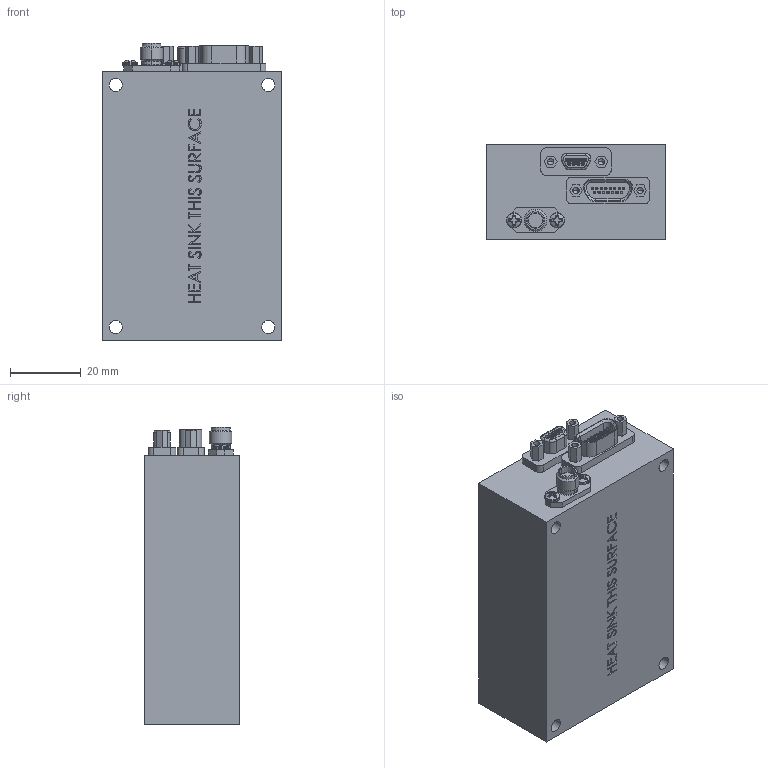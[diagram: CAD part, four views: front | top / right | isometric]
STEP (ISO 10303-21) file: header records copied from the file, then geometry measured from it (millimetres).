
FILE_DESCRIPTION (( 'STEP AP203' ), '1' );
FILE_NAME ('06BE.STEP', '2025-11-11T21:16:56', ( '' ), ( '' ), 'SwSTEP 2.0', 'SolidWorks 2023', '' );
FILE_SCHEMA (( 'CONFIG_CONTROL_DESIGN' ));
Length unit declared in the file: inch
Products named in the file (1): 06BE
Bounding box: 50.8 x 26.97 x 84.14 mm (x, y, z)
Volume: 105388.1 mm3; surface area: 20078.1 mm2
Topology: 10 solids, 10 shells, 898 faces, 2168 edges, 1406 vertices
Faces by surface type: plane 420, cylinder 287, bspline 101, cone 53, torus 33, sphere 4
Entity records: 31272 total; most frequent: CARTESIAN_POINT 10462, ORIENTED_EDGE 4304, DIRECTION 4163, EDGE_CURVE 2152, AXIS2_PLACEMENT_3D 1479, VERTEX_POINT 1406, LINE 1205, VECTOR 1205
